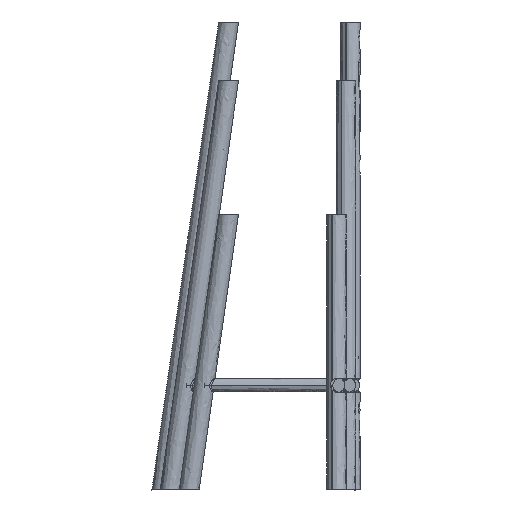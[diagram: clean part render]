
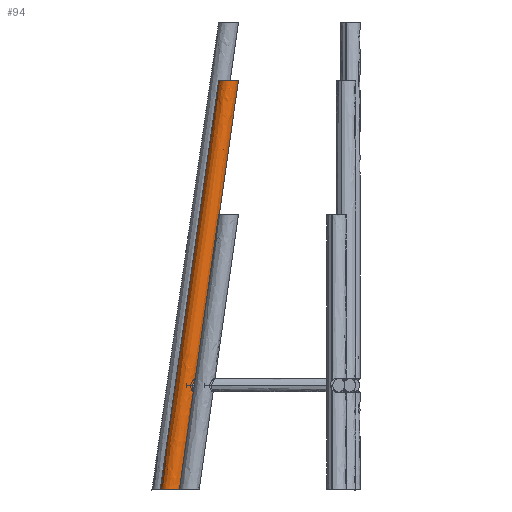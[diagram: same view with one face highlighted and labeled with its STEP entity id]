
A CAD part, left-side view. The second image highlights one B-rep face of the part: STEP entity #94.
In plain terms, the highlighted free-form (B-spline) face has degree [3, 2] with [4, 5] control points.
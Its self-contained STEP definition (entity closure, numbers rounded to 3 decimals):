
#94=ADVANCED_FACE('',(#186),#1149,.T.);
#186=FACE_OUTER_BOUND('',#280,.T.);
#280=EDGE_LOOP('',(#462,#463,#464,#465,#466,#467,#468));
#462=ORIENTED_EDGE('',*,*,#833,.T.);
#463=ORIENTED_EDGE('',*,*,#818,.F.);
#464=ORIENTED_EDGE('',*,*,#830,.F.);
#465=ORIENTED_EDGE('',*,*,#826,.T.);
#466=ORIENTED_EDGE('',*,*,#840,.T.);
#467=ORIENTED_EDGE('',*,*,#822,.F.);
#468=ORIENTED_EDGE('',*,*,#820,.T.);
#818=EDGE_CURVE('',#1002,#1013,#1295,.T.);
#820=EDGE_CURVE('',#1004,#1012,#1297,.T.);
#822=EDGE_CURVE('',#1004,#1006,#1223,.T.);
#826=EDGE_CURVE('',#1008,#1017,#1301,.T.);
#830=EDGE_CURVE('',#1008,#1002,#1225,.T.);
#833=EDGE_CURVE('',#1012,#1013,#1227,.T.);
#840=EDGE_CURVE('',#1017,#1006,#1310,.T.);
#1002=VERTEX_POINT('',#2433);
#1004=VERTEX_POINT('',#2435);
#1006=VERTEX_POINT('',#2437);
#1008=VERTEX_POINT('',#2439);
#1012=VERTEX_POINT('',#2443);
#1013=VERTEX_POINT('',#2444);
#1017=VERTEX_POINT('',#2448);
#1149=(
BOUNDED_SURFACE()
B_SPLINE_SURFACE(3,2,((#2325,#2326,#2327,#2328,#2329),(#2330,#2331,#2332,
#2333,#2334),(#2335,#2336,#2337,#2338,#2339),(#2340,#2341,#2342,#2343,#2344)),
.UNSPECIFIED.,.F.,.F.,.F.)
B_SPLINE_SURFACE_WITH_KNOTS((4,4),(3,2,3),(41.505,683.461),
(-47.124,-23.562,0.),.UNSPECIFIED.)
GEOMETRIC_REPRESENTATION_ITEM()
RATIONAL_B_SPLINE_SURFACE(((1.,0.707,1.,0.707,1.),
(1.,0.707,1.,0.707,1.),(1.,0.707,1.,
0.707,1.),(1.,0.707,1.,0.707,1.)))
REPRESENTATION_ITEM('')
SURFACE()
);
#1223=(
BOUNDED_CURVE()
B_SPLINE_CURVE(3,(#2127,#2128,#2129,#2130),.UNSPECIFIED.,.F.,.F.)
B_SPLINE_CURVE_WITH_KNOTS((4,4),(47.861,507.464),.UNSPECIFIED.)
CURVE()
GEOMETRIC_REPRESENTATION_ITEM()
RATIONAL_B_SPLINE_CURVE((1.,1.,1.,1.))
REPRESENTATION_ITEM('')
);
#1225=(
BOUNDED_CURVE()
B_SPLINE_CURVE(3,(#2209,#2210,#2211,#2212),.UNSPECIFIED.,.F.,.F.)
B_SPLINE_CURVE_WITH_KNOTS((4,4),(527.665,679.183),.UNSPECIFIED.)
CURVE()
GEOMETRIC_REPRESENTATION_ITEM()
RATIONAL_B_SPLINE_CURVE((1.,1.,1.,1.))
REPRESENTATION_ITEM('')
);
#1227=(
BOUNDED_CURVE()
B_SPLINE_CURVE(3,(#2219,#2220,#2221,#2222),.UNSPECIFIED.,.F.,.F.)
B_SPLINE_CURVE_WITH_KNOTS((4,4),(52.139,683.461),.UNSPECIFIED.)
CURVE()
GEOMETRIC_REPRESENTATION_ITEM()
RATIONAL_B_SPLINE_CURVE((1.,1.,1.,1.))
REPRESENTATION_ITEM('')
);
#1295=B_SPLINE_CURVE_WITH_KNOTS('',3,(#2051,#2052,#2053,#2054,#2055,#2056,
#2057,#2058,#2059,#2060,#2061,#2062,#2063,#2064,#2065,#2066,#2067,#2068,
#2069),.UNSPECIFIED.,.F.,.F.,(4,2,2,2,3,2,2,2,4),(0.,5.679,11.836,
17.984,23.669,29.352,35.506,41.656,
47.34),.UNSPECIFIED.);
#1297=B_SPLINE_CURVE_WITH_KNOTS('',3,(#2089,#2090,#2091,#2092,#2093,#2094,
#2095,#2096,#2097,#2098,#2099,#2100,#2101,#2102,#2103,#2104,#2105,#2106,
#2107),.UNSPECIFIED.,.F.,.F.,(4,2,2,2,3,2,2,2,4),(0.,5.679,11.836,
17.984,23.669,29.352,35.506,41.656,
47.34),.UNSPECIFIED.);
#1301=B_SPLINE_CURVE_WITH_KNOTS('',3,(#2161,#2162,#2163,#2164,#2165,#2166,
#2167,#2168,#2169,#2170),.UNSPECIFIED.,.F.,.F.,(4,2,2,2,4),(-15.89,
-12.108,-8.094,-4.046,0.),
.UNSPECIFIED.);
#1310=B_SPLINE_CURVE_WITH_KNOTS('',3,(#2305,#2306,#2307,#2308,#2309,#2310,
#2311,#2312,#2313,#2314),.UNSPECIFIED.,.F.,.F.,(4,2,2,2,4),(0.,
4.204,8.434,12.637,16.609),.UNSPECIFIED.);
#2051=CARTESIAN_POINT('',(665.506,239.096,0.));
#2052=CARTESIAN_POINT('',(663.604,239.096,0.));
#2053=CARTESIAN_POINT('',(661.725,239.461,0.));
#2054=CARTESIAN_POINT('',(658.048,240.938,0.));
#2055=CARTESIAN_POINT('',(656.317,242.094,0.));
#2056=CARTESIAN_POINT('',(653.427,245.029,0.));
#2057=CARTESIAN_POINT('',(652.299,246.775,0.));
#2058=CARTESIAN_POINT('',(650.859,250.463,0.));
#2059=CARTESIAN_POINT('',(650.506,252.346,0.));
#2060=CARTESIAN_POINT('',(650.506,254.248,0.));
#2061=CARTESIAN_POINT('',(650.506,256.15,0.));
#2062=CARTESIAN_POINT('',(650.859,258.032,0.));
#2063=CARTESIAN_POINT('',(652.299,261.721,0.));
#2064=CARTESIAN_POINT('',(653.428,263.468,0.));
#2065=CARTESIAN_POINT('',(656.317,266.402,0.));
#2066=CARTESIAN_POINT('',(658.046,267.557,0.));
#2067=CARTESIAN_POINT('',(661.722,269.035,0.));
#2068=CARTESIAN_POINT('',(663.603,269.4,0.));
#2069=CARTESIAN_POINT('',(665.506,269.4,0.));
#2089=CARTESIAN_POINT('',(665.504,149.975,625.));
#2090=CARTESIAN_POINT('',(663.603,149.975,625.));
#2091=CARTESIAN_POINT('',(661.723,150.34,625.));
#2092=CARTESIAN_POINT('',(658.047,151.817,625.));
#2093=CARTESIAN_POINT('',(656.316,152.973,625.));
#2094=CARTESIAN_POINT('',(653.426,155.908,625.));
#2095=CARTESIAN_POINT('',(652.297,157.654,625.));
#2096=CARTESIAN_POINT('',(650.858,161.342,625.));
#2097=CARTESIAN_POINT('',(650.504,163.225,625.));
#2098=CARTESIAN_POINT('',(650.504,165.127,625.));
#2099=CARTESIAN_POINT('',(650.504,167.029,625.));
#2100=CARTESIAN_POINT('',(650.858,168.911,625.));
#2101=CARTESIAN_POINT('',(652.297,172.6,625.));
#2102=CARTESIAN_POINT('',(653.426,174.347,625.));
#2103=CARTESIAN_POINT('',(656.316,177.281,625.));
#2104=CARTESIAN_POINT('',(658.045,178.436,625.));
#2105=CARTESIAN_POINT('',(661.721,179.914,625.));
#2106=CARTESIAN_POINT('',(663.601,180.279,625.));
#2107=CARTESIAN_POINT('',(665.504,180.279,625.));
#2127=CARTESIAN_POINT('',(665.504,149.975,625.));
#2128=CARTESIAN_POINT('',(665.505,171.602,473.333));
#2129=CARTESIAN_POINT('',(665.505,193.229,321.666));
#2130=CARTESIAN_POINT('',(665.505,214.856,170.));
#2161=CARTESIAN_POINT('',(665.505,217.707,150.));
#2162=CARTESIAN_POINT('',(664.237,217.706,150.013));
#2163=CARTESIAN_POINT('',(663.,217.834,150.265));
#2164=CARTESIAN_POINT('',(660.621,218.301,151.229));
#2165=CARTESIAN_POINT('',(659.524,218.646,151.956));
#2166=CARTESIAN_POINT('',(657.671,219.357,153.773));
#2167=CARTESIAN_POINT('',(656.913,219.727,154.874));
#2168=CARTESIAN_POINT('',(655.872,220.18,157.338));
#2169=CARTESIAN_POINT('',(655.603,220.245,158.648));
#2170=CARTESIAN_POINT('',(655.603,220.052,160.));
#2209=CARTESIAN_POINT('',(665.505,217.707,150.));
#2210=CARTESIAN_POINT('',(665.505,224.837,100.));
#2211=CARTESIAN_POINT('',(665.506,231.967,50.));
#2212=CARTESIAN_POINT('',(665.506,239.096,0.));
#2219=CARTESIAN_POINT('',(665.504,180.279,625.));
#2220=CARTESIAN_POINT('',(665.505,209.986,416.667));
#2221=CARTESIAN_POINT('',(665.505,239.693,208.333));
#2222=CARTESIAN_POINT('',(665.506,269.4,0.));
#2305=CARTESIAN_POINT('',(655.603,220.052,160.));
#2306=CARTESIAN_POINT('',(655.603,219.852,161.401));
#2307=CARTESIAN_POINT('',(655.893,219.397,162.713));
#2308=CARTESIAN_POINT('',(656.896,218.285,165.083));
#2309=CARTESIAN_POINT('',(657.62,217.627,166.153));
#2310=CARTESIAN_POINT('',(659.401,216.423,167.944));
#2311=CARTESIAN_POINT('',(660.479,215.859,168.692));
#2312=CARTESIAN_POINT('',(662.891,215.079,169.709));
#2313=CARTESIAN_POINT('',(664.17,214.857,169.986));
#2314=CARTESIAN_POINT('',(665.505,214.856,170.));
#2325=CARTESIAN_POINT('',(665.504,178.778,635.527));
#2326=CARTESIAN_POINT('',(650.504,178.778,635.527));
#2327=CARTESIAN_POINT('',(650.504,163.928,633.41));
#2328=CARTESIAN_POINT('',(650.504,149.078,631.292));
#2329=CARTESIAN_POINT('',(665.504,149.078,631.292));
#2330=CARTESIAN_POINT('',(665.505,208.985,423.685));
#2331=CARTESIAN_POINT('',(650.505,208.985,423.685));
#2332=CARTESIAN_POINT('',(650.505,194.135,421.567));
#2333=CARTESIAN_POINT('',(650.505,179.286,419.45));
#2334=CARTESIAN_POINT('',(665.505,179.286,419.45));
#2335=CARTESIAN_POINT('',(665.505,239.193,211.842));
#2336=CARTESIAN_POINT('',(650.505,239.193,211.842));
#2337=CARTESIAN_POINT('',(650.505,224.343,209.725));
#2338=CARTESIAN_POINT('',(650.505,209.493,207.607));
#2339=CARTESIAN_POINT('',(665.505,209.493,207.607));
#2340=CARTESIAN_POINT('',(665.506,269.4,0.));
#2341=CARTESIAN_POINT('',(650.506,269.4,0.));
#2342=CARTESIAN_POINT('',(650.506,254.55,-2.118));
#2343=CARTESIAN_POINT('',(650.506,239.7,-4.235));
#2344=CARTESIAN_POINT('',(665.506,239.7,-4.235));
#2433=CARTESIAN_POINT('',(665.506,239.096,0.));
#2435=CARTESIAN_POINT('',(665.504,149.975,625.));
#2437=CARTESIAN_POINT('',(665.505,214.856,170.));
#2439=CARTESIAN_POINT('',(665.505,217.707,150.));
#2443=CARTESIAN_POINT('',(665.504,180.279,625.));
#2444=CARTESIAN_POINT('',(665.506,269.4,0.));
#2448=CARTESIAN_POINT('',(655.603,220.052,160.));
